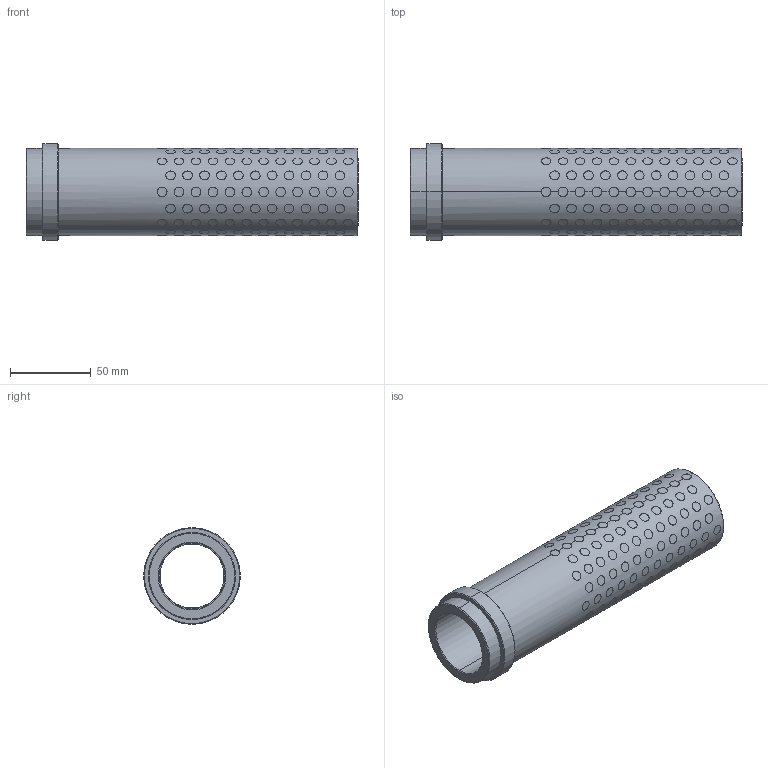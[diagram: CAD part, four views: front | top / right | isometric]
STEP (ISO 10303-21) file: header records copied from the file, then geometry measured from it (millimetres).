
FILE_DESCRIPTION((''),'2;1');
FILE_NAME('G31240196','2017-12-31T',('MANU'),(''),'PRO/ENGINEER BY PARAMETRIC TECHNOLOGY CORPORATION, 2012130','PRO/ENGINEER BY PARAMETRIC TECHNOLOGY CORPORATION, 2012130','');
FILE_SCHEMA(('CONFIG_CONTROL_DESIGN'));
Products named in the file (1): G31240196
Bounding box: 206 x 60 x 60 mm (x, y, z)
Volume: 212600.2 mm3; surface area: 112506.4 mm2
Topology: 185 solids, 185 shells, 1131 faces, 2406 edges, 1600 vertices
Faces by surface type: cylinder 1114, cone 12, plane 5
Entity records: 61196 total; most frequent: CARTESIAN_POINT 39283, ORIENTED_EDGE 4812, DIRECTION 3132, EDGE_CURVE 2406, VERTEX_POINT 1600, B_SPLINE_CURVE_WITH_KNOTS 1568, EDGE_LOOP 1456, AXIS2_PLACEMENT_3D 1163
